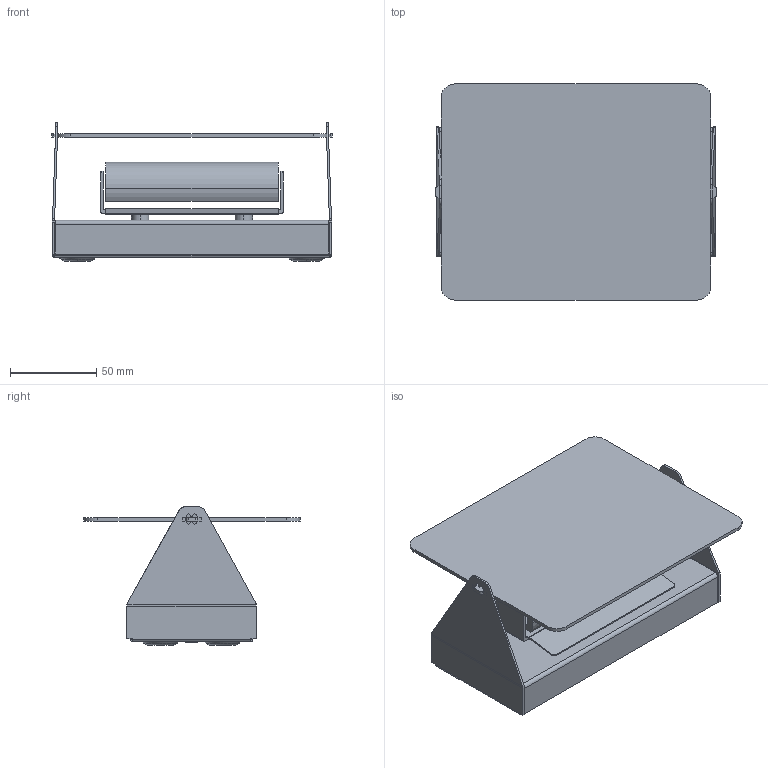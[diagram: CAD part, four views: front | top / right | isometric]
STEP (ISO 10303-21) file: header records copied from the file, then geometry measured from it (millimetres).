
FILE_DESCRIPTION (( 'STEP AP214' ), '1' );
FILE_NAME ('3D_APPLIQUE_A_VOLET_PIVOTANT_R7s.STEP', '2018-03-23T09:48:53', ( 'Utente' ), ( '' ), 'SwSTEP 2.0', 'SolidWorks 2016', '' );
FILE_SCHEMA (( 'AUTOMOTIVE_DESIGN' ));
Length unit declared in the file: millimetre
Products named in the file (5): 3D_APPLIQUE_A_VOLET_PIVOTANT_R7s; 010AVP001400 RIFLETTORE UNIVERSALEMARTI-1^Assieme1; vetro_3-4_tubo_sabbiato_r7s_100mmMARTI-1^Assieme1; 010AVP700311 VOLE SINGLEMARTI-1^Assieme1; Group1^Assieme1
Assembly tree (4 placements, depth 2):
  3D_APPLIQUE_A_VOLET_PIVOTANT_R7s
    Group1^Assieme1
    010AVP700311 VOLE SINGLEMARTI-1^Assieme1
    vetro_3-4_tubo_sabbiato_r7s_100mmMARTI-1^Assieme1
    010AVP001400 RIFLETTORE UNIVERSALEMARTI-1^Assieme1
Bounding box: 162 x 125 x 79.92 mm (x, y, z)
Volume: 129503 mm3; surface area: 159213.4 mm2
Topology: 4 solids, 4 shells, 283 faces, 693 edges, 428 vertices
Faces by surface type: plane 151, cylinder 94, torus 22, cone 12, bspline 4
Entity records: 8753 total; most frequent: DIRECTION 1507, CARTESIAN_POINT 1463, ORIENTED_EDGE 1386, EDGE_CURVE 693, AXIS2_PLACEMENT_3D 536, LINE 435, VECTOR 435, VERTEX_POINT 428
